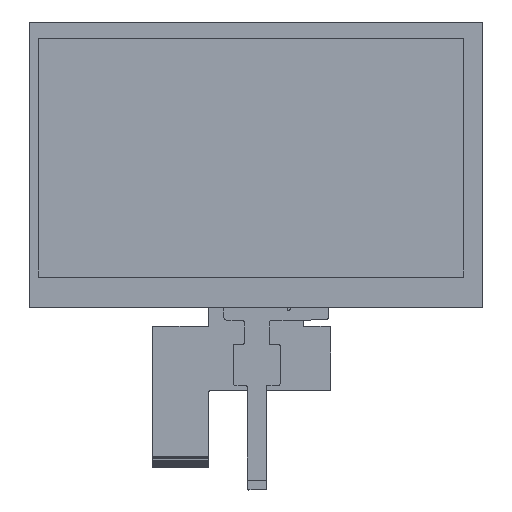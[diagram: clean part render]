
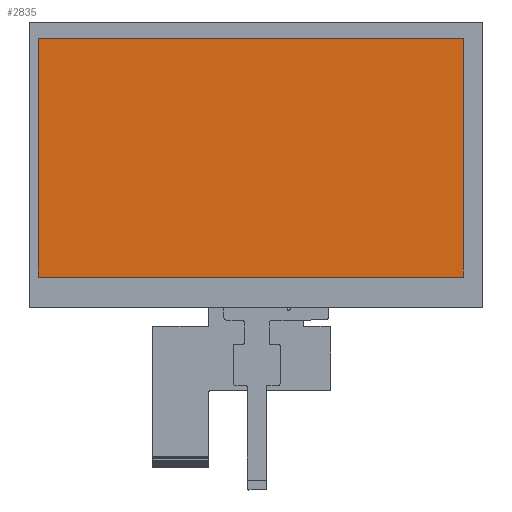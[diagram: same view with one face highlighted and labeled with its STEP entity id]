
A CAD part, top view. The second image highlights one B-rep face of the part: STEP entity #2835.
In plain terms, the highlighted planar face has unit normal (0, 0, 1).
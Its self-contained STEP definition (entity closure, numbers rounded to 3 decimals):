
#293 = ORIENTED_EDGE ( 'NONE', *, *, #4695, .F. ) ;
#1230 = DIRECTION ( 'NONE',  ( 0., -1., 0. ) ) ;
#1419 = CARTESIAN_POINT ( 'NONE',  ( -82.343, 47.94, 0.35 ) ) ;
#1732 = CARTESIAN_POINT ( 'NONE',  ( 72.557, -38.91, 0.35 ) ) ;
#1902 = CARTESIAN_POINT ( 'NONE',  ( -82.343, 47.94, 0.35 ) ) ;
#2101 = EDGE_CURVE ( 'NONE', #8691, #9798, #2169, .T. ) ;
#2169 = LINE ( 'NONE', #4961, #12292 ) ;
#2261 = CARTESIAN_POINT ( 'NONE',  ( 72.557, -38.91, 0.35 ) ) ;
#2624 = CARTESIAN_POINT ( 'NONE',  ( -82.343, 47.94, 0.35 ) ) ;
#2835 = ADVANCED_FACE ( 'NONE', ( #11410 ), #8869, .T. ) ;
#3075 = VECTOR ( 'NONE', #11285, 1000. ) ;
#3753 = CARTESIAN_POINT ( 'NONE',  ( 72.557, 47.94, 0.35 ) ) ;
#4060 = DIRECTION ( 'NONE',  ( -1., 0., 0. ) ) ;
#4392 = ORIENTED_EDGE ( 'NONE', *, *, #12186, .F. ) ;
#4695 = EDGE_CURVE ( 'NONE', #8953, #8828, #4855, .T. ) ;
#4855 = LINE ( 'NONE', #6104, #8053 ) ;
#4906 = LINE ( 'NONE', #2624, #3075 ) ;
#4961 = CARTESIAN_POINT ( 'NONE',  ( -82.343, -38.91, 0.35 ) ) ;
#5623 = CARTESIAN_POINT ( 'NONE',  ( -82.343, -38.91, 0.35 ) ) ;
#6104 = CARTESIAN_POINT ( 'NONE',  ( 72.557, 47.94, 0.35 ) ) ;
#7024 = LINE ( 'NONE', #2261, #12424 ) ;
#7166 = ORIENTED_EDGE ( 'NONE', *, *, #2101, .F. ) ;
#7311 = DIRECTION ( 'NONE',  ( 1., 0., 0. ) ) ;
#8053 = VECTOR ( 'NONE', #8842, 1000. ) ;
#8259 = ORIENTED_EDGE ( 'NONE', *, *, #9552, .F. ) ;
#8691 = VERTEX_POINT ( 'NONE', #1732 ) ;
#8828 = VERTEX_POINT ( 'NONE', #3753 ) ;
#8842 = DIRECTION ( 'NONE',  ( 1., 0., 0. ) ) ;
#8869 = PLANE ( 'NONE',  #11627 ) ;
#8953 = VERTEX_POINT ( 'NONE', #1902 ) ;
#9208 = DIRECTION ( 'NONE',  ( 0., 0., 1. ) ) ;
#9552 = EDGE_CURVE ( 'NONE', #8828, #8691, #7024, .T. ) ;
#9798 = VERTEX_POINT ( 'NONE', #5623 ) ;
#11026 = EDGE_LOOP ( 'NONE', ( #293, #4392, #7166, #8259 ) ) ;
#11285 = DIRECTION ( 'NONE',  ( 0., 1., 0. ) ) ;
#11410 = FACE_OUTER_BOUND ( 'NONE', #11026, .T. ) ;
#11627 = AXIS2_PLACEMENT_3D ( 'NONE', #1419, #9208, #7311 ) ;
#12186 = EDGE_CURVE ( 'NONE', #9798, #8953, #4906, .T. ) ;
#12292 = VECTOR ( 'NONE', #4060, 1000. ) ;
#12424 = VECTOR ( 'NONE', #1230, 1000. ) ;
